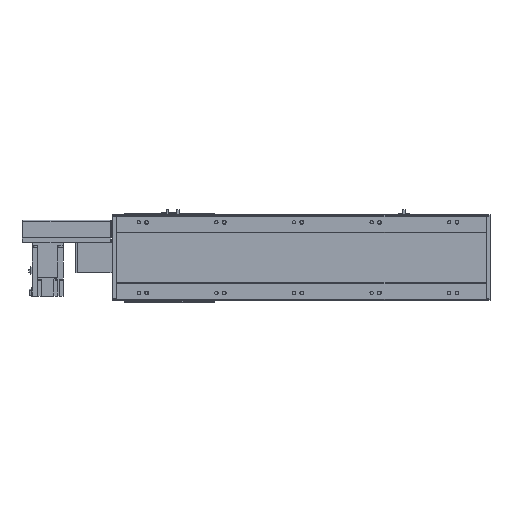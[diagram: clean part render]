
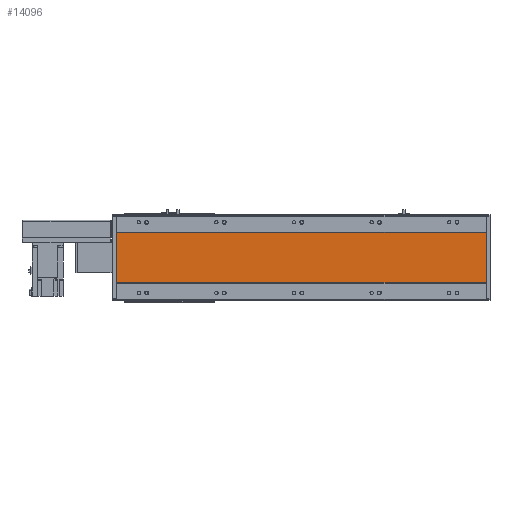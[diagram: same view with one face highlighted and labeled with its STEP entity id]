
A CAD part, front view. The second image highlights one B-rep face of the part: STEP entity #14096.
In plain terms, the highlighted planar face has unit normal (0, -1, 0).
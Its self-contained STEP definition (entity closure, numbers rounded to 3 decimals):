
#3127=ORIENTED_EDGE('',*,*,#6312,.T.);
#3128=ORIENTED_EDGE('',*,*,#6313,.F.);
#3129=ORIENTED_EDGE('',*,*,#6314,.F.);
#3130=ORIENTED_EDGE('',*,*,#6310,.T.);
#6310=EDGE_CURVE('',#8025,#8024,#9290,.T.);
#6312=EDGE_CURVE('',#8024,#8026,#9291,.T.);
#6313=EDGE_CURVE('',#8027,#8026,#9292,.T.);
#6314=EDGE_CURVE('',#8025,#8027,#9293,.T.);
#8024=VERTEX_POINT('',#23205);
#8025=VERTEX_POINT('',#23207);
#8026=VERTEX_POINT('',#23211);
#8027=VERTEX_POINT('',#23213);
#9290=LINE('',#23206,#10629);
#9291=LINE('',#23210,#10630);
#9292=LINE('',#23212,#10631);
#9293=LINE('',#23214,#10632);
#10629=VECTOR('',#18569,1000.);
#10630=VECTOR('',#18574,1000.);
#10631=VECTOR('',#18575,1000.);
#10632=VECTOR('',#18576,1000.);
#11574=EDGE_LOOP('',(#3127,#3128,#3129,#3130));
#12625=FACE_BOUND('',#11574,.T.);
#13447=PLANE('',#15370);
#14096=ADVANCED_FACE('',(#12625),#13447,.F.);
#15370=AXIS2_PLACEMENT_3D('',#23209,#18572,#18573);
#18569=DIRECTION('',(-1.,0.,0.));
#18572=DIRECTION('',(0.,1.,0.));
#18573=DIRECTION('',(0.,0.,1.));
#18574=DIRECTION('',(0.,0.,-1.));
#18575=DIRECTION('',(-1.,0.,0.));
#18576=DIRECTION('',(0.,0.,-1.));
#23205=CARTESIAN_POINT('',(12.,1.,64.294));
#23206=CARTESIAN_POINT('',(964.,1.,64.294));
#23207=CARTESIAN_POINT('',(964.,1.,64.294));
#23209=CARTESIAN_POINT('',(964.,1.,64.294));
#23210=CARTESIAN_POINT('',(12.,1.,64.294));
#23211=CARTESIAN_POINT('',(12.,1.,-64.294));
#23212=CARTESIAN_POINT('',(964.,1.,-64.294));
#23213=CARTESIAN_POINT('',(964.,1.,-64.294));
#23214=CARTESIAN_POINT('',(964.,1.,64.294));
